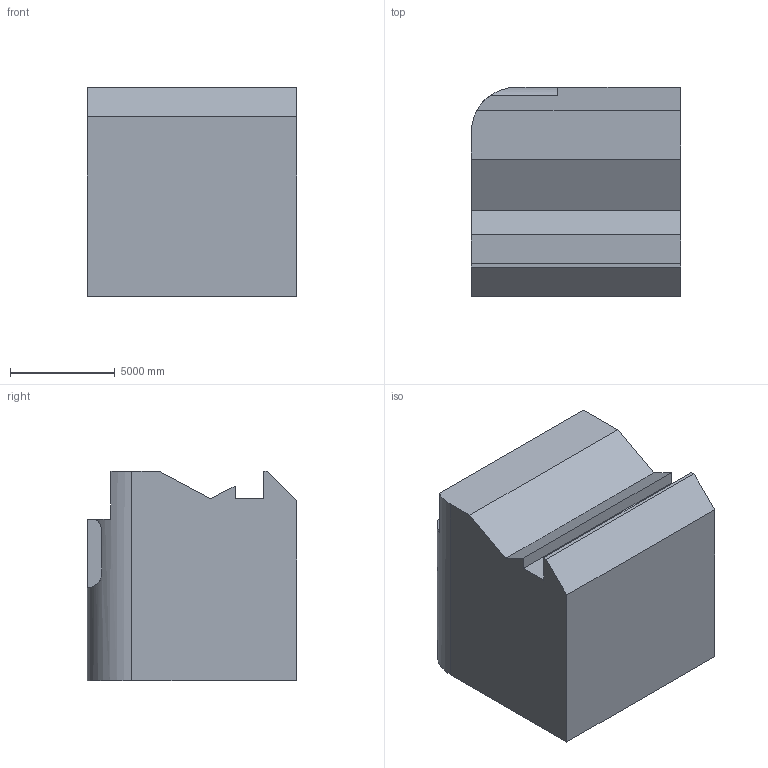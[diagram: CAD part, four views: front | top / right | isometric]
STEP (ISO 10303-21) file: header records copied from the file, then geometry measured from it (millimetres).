
FILE_DESCRIPTION (( 'STEP AP203' ), '1' );
FILE_NAME ('1532.STEP', '2022-08-25T15:06:02', ( 'user' ), ( '' ), 'SwSTEP 2.0', 'SolidWorks 2021', '' );
FILE_SCHEMA (( 'CONFIG_CONTROL_DESIGN' ));
Length unit declared in the file: centimetre
Products named in the file (1): 1532
Bounding box: 10000 x 10000 x 10000 mm (x, y, z)
Volume: 904812872134.6 mm3; surface area: 591927641.5 mm2
Topology: 1 solids, 1 shells, 20 faces, 54 edges, 36 vertices
Faces by surface type: plane 17, cylinder 3
Entity records: 826 total; most frequent: CARTESIAN_POINT 241, ORIENTED_EDGE 108, DIRECTION 99, EDGE_CURVE 54, LINE 47, VECTOR 47, VERTEX_POINT 36, AXIS2_PLACEMENT_3D 26
